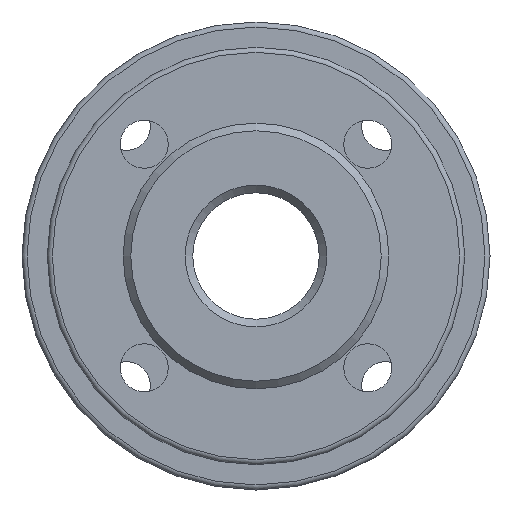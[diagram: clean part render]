
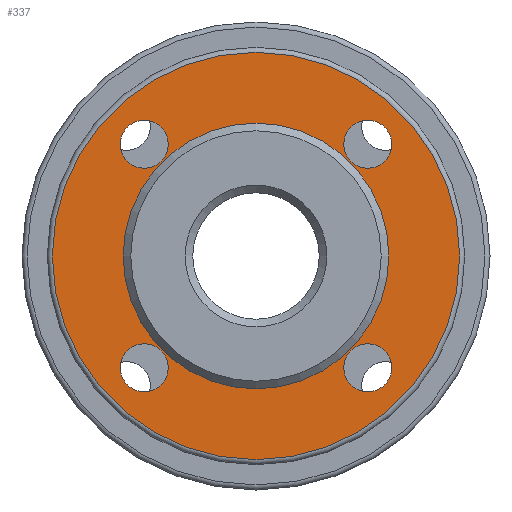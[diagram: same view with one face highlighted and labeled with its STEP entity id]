
A CAD part, left-side view. The second image highlights one B-rep face of the part: STEP entity #337.
In plain terms, the highlighted planar face has unit normal (-1, 0, 0).
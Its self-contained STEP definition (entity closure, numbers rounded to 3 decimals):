
#6 = CIRCLE ( 'NONE', #412, 80.5 ) ;
#75 = AXIS2_PLACEMENT_3D ( 'NONE', #2258, #667, #1373 ) ;
#117 = CIRCLE ( 'NONE', #75, 9.5 ) ;
#196 = CIRCLE ( 'NONE', #1784, 52.5 ) ;
#197 = PLANE ( 'NONE',  #1796 ) ;
#213 = EDGE_CURVE ( 'NONE', #526, #526, #795, .T. ) ;
#220 = FACE_BOUND ( 'NONE', #1371, .T. ) ;
#225 = CARTESIAN_POINT ( 'NONE',  ( 3., 0., 52.5 ) ) ;
#299 = EDGE_LOOP ( 'NONE', ( #1266 ) ) ;
#337 = ADVANCED_FACE ( 'NONE', ( #1252, #1956, #1263, #1413, #364, #220 ), #197, .F. ) ;
#359 = CARTESIAN_POINT ( 'NONE',  ( 3., -44.194, -53.694 ) ) ;
#364 = FACE_BOUND ( 'NONE', #1246, .T. ) ;
#412 = AXIS2_PLACEMENT_3D ( 'NONE', #1369, #2279, #1056 ) ;
#419 = AXIS2_PLACEMENT_3D ( 'NONE', #1230, #2110, #503 ) ;
#460 = VERTEX_POINT ( 'NONE', #1474 ) ;
#503 = DIRECTION ( 'NONE',  ( 0., 0., 1. ) ) ;
#526 = VERTEX_POINT ( 'NONE', #732 ) ;
#611 = EDGE_LOOP ( 'NONE', ( #1799 ) ) ;
#667 = DIRECTION ( 'NONE',  ( -1., 0., 0. ) ) ;
#679 = CIRCLE ( 'NONE', #419, 9.5 ) ;
#732 = CARTESIAN_POINT ( 'NONE',  ( 3., -53.694, 44.194 ) ) ;
#795 = CIRCLE ( 'NONE', #1793, 9.5 ) ;
#831 = DIRECTION ( 'NONE',  ( -1., 0., 0. ) ) ;
#844 = CARTESIAN_POINT ( 'NONE',  ( 3., -44.194, 44.194 ) ) ;
#918 = DIRECTION ( 'NONE',  ( 0., 0., -1. ) ) ;
#1056 = DIRECTION ( 'NONE',  ( 0., 0., -1. ) ) ;
#1101 = EDGE_CURVE ( 'NONE', #1960, #1960, #117, .T. ) ;
#1139 = CARTESIAN_POINT ( 'NONE',  ( 3., 0., 0. ) ) ;
#1153 = ORIENTED_EDGE ( 'NONE', *, *, #1441, .T. ) ;
#1171 = CARTESIAN_POINT ( 'NONE',  ( 3., 44.194, -44.194 ) ) ;
#1186 = ORIENTED_EDGE ( 'NONE', *, *, #1101, .F. ) ;
#1219 = ORIENTED_EDGE ( 'NONE', *, *, #2111, .F. ) ;
#1230 = CARTESIAN_POINT ( 'NONE',  ( 3., 44.194, 44.194 ) ) ;
#1246 = EDGE_LOOP ( 'NONE', ( #1612 ) ) ;
#1252 = FACE_OUTER_BOUND ( 'NONE', #1881, .T. ) ;
#1263 = FACE_BOUND ( 'NONE', #2136, .T. ) ;
#1266 = ORIENTED_EDGE ( 'NONE', *, *, #213, .F. ) ;
#1369 = CARTESIAN_POINT ( 'NONE',  ( 3., 0., 0. ) ) ;
#1371 = EDGE_LOOP ( 'NONE', ( #1219 ) ) ;
#1373 = DIRECTION ( 'NONE',  ( 0., 0., -1. ) ) ;
#1413 = FACE_BOUND ( 'NONE', #611, .T. ) ;
#1441 = EDGE_CURVE ( 'NONE', #460, #460, #6, .T. ) ;
#1452 = AXIS2_PLACEMENT_3D ( 'NONE', #1171, #831, #2287 ) ;
#1458 = DIRECTION ( 'NONE',  ( 1., 0., 0. ) ) ;
#1474 = CARTESIAN_POINT ( 'NONE',  ( 3., 0., -80.5 ) ) ;
#1508 = CARTESIAN_POINT ( 'NONE',  ( 3., 53.694, -44.194 ) ) ;
#1551 = DIRECTION ( 'NONE',  ( -1., 0., 0. ) ) ;
#1564 = DIRECTION ( 'NONE',  ( 0., -1., 0. ) ) ;
#1612 = ORIENTED_EDGE ( 'NONE', *, *, #1847, .F. ) ;
#1784 = AXIS2_PLACEMENT_3D ( 'NONE', #1139, #2173, #2209 ) ;
#1793 = AXIS2_PLACEMENT_3D ( 'NONE', #844, #1551, #1564 ) ;
#1796 = AXIS2_PLACEMENT_3D ( 'NONE', #1946, #1458, #918 ) ;
#1799 = ORIENTED_EDGE ( 'NONE', *, *, #1806, .F. ) ;
#1806 = EDGE_CURVE ( 'NONE', #1832, #1832, #2190, .T. ) ;
#1832 = VERTEX_POINT ( 'NONE', #1508 ) ;
#1844 = VERTEX_POINT ( 'NONE', #1998 ) ;
#1847 = EDGE_CURVE ( 'NONE', #1844, #1844, #679, .T. ) ;
#1881 = EDGE_LOOP ( 'NONE', ( #1153 ) ) ;
#1946 = CARTESIAN_POINT ( 'NONE',  ( 3., 52.5, 0. ) ) ;
#1956 = FACE_BOUND ( 'NONE', #299, .T. ) ;
#1960 = VERTEX_POINT ( 'NONE', #359 ) ;
#1998 = CARTESIAN_POINT ( 'NONE',  ( 3., 44.194, 53.694 ) ) ;
#2110 = DIRECTION ( 'NONE',  ( -1., 0., 0. ) ) ;
#2111 = EDGE_CURVE ( 'NONE', #2170, #2170, #196, .T. ) ;
#2136 = EDGE_LOOP ( 'NONE', ( #1186 ) ) ;
#2170 = VERTEX_POINT ( 'NONE', #225 ) ;
#2173 = DIRECTION ( 'NONE',  ( -1., 0., 0. ) ) ;
#2190 = CIRCLE ( 'NONE', #1452, 9.5 ) ;
#2209 = DIRECTION ( 'NONE',  ( 0., 0., 1. ) ) ;
#2258 = CARTESIAN_POINT ( 'NONE',  ( 3., -44.194, -44.194 ) ) ;
#2279 = DIRECTION ( 'NONE',  ( -1., 0., 0. ) ) ;
#2287 = DIRECTION ( 'NONE',  ( 0., 1., 0. ) ) ;
